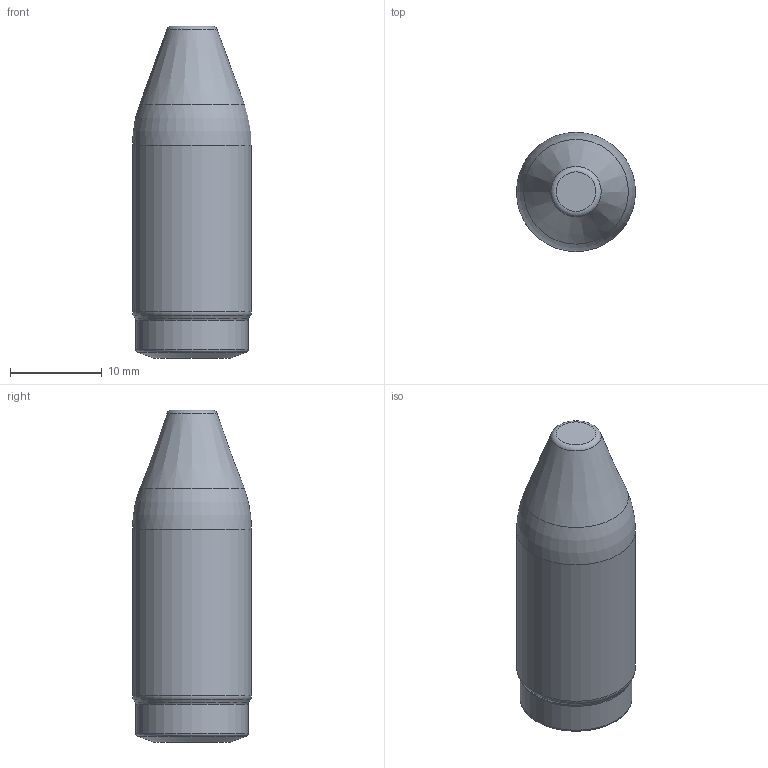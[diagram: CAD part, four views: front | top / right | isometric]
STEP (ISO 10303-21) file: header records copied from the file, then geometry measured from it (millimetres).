
FILE_DESCRIPTION (( 'STEP AP214' ), '1' );
FILE_NAME ('P-13mm-2.5mm-BT.STEP', '2023-10-06T14:34:18', ( '' ), ( '' ), 'SwSTEP 2.0', 'SolidWorks 2020', '' );
FILE_SCHEMA (( 'AUTOMOTIVE_DESIGN' ));
Length unit declared in the file: inch
Products named in the file (1): P-13mm-2.5mm-BT
Bounding box: 13 x 13 x 36.25 mm (x, y, z)
Volume: 3609.8 mm3; surface area: 1749.2 mm2
Topology: 1 solids, 1 shells, 16 faces, 34 edges, 20 vertices
Faces by surface type: torus 5, cone 5, cylinder 4, plane 2
Full cylindrical faces by diameter (mm): 4.999 x1, 6 x1, 12.243 x1, 13 x1
Entity records: 354 total; most frequent: DIRECTION 64, CARTESIAN_POINT 47, AXIS2_PLACEMENT_3D 32, ORIENTED_EDGE 30, EDGE_LOOP 30, FACE_OUTER_BOUND 25, ADVANCED_FACE 16, VERTEX_POINT 15
